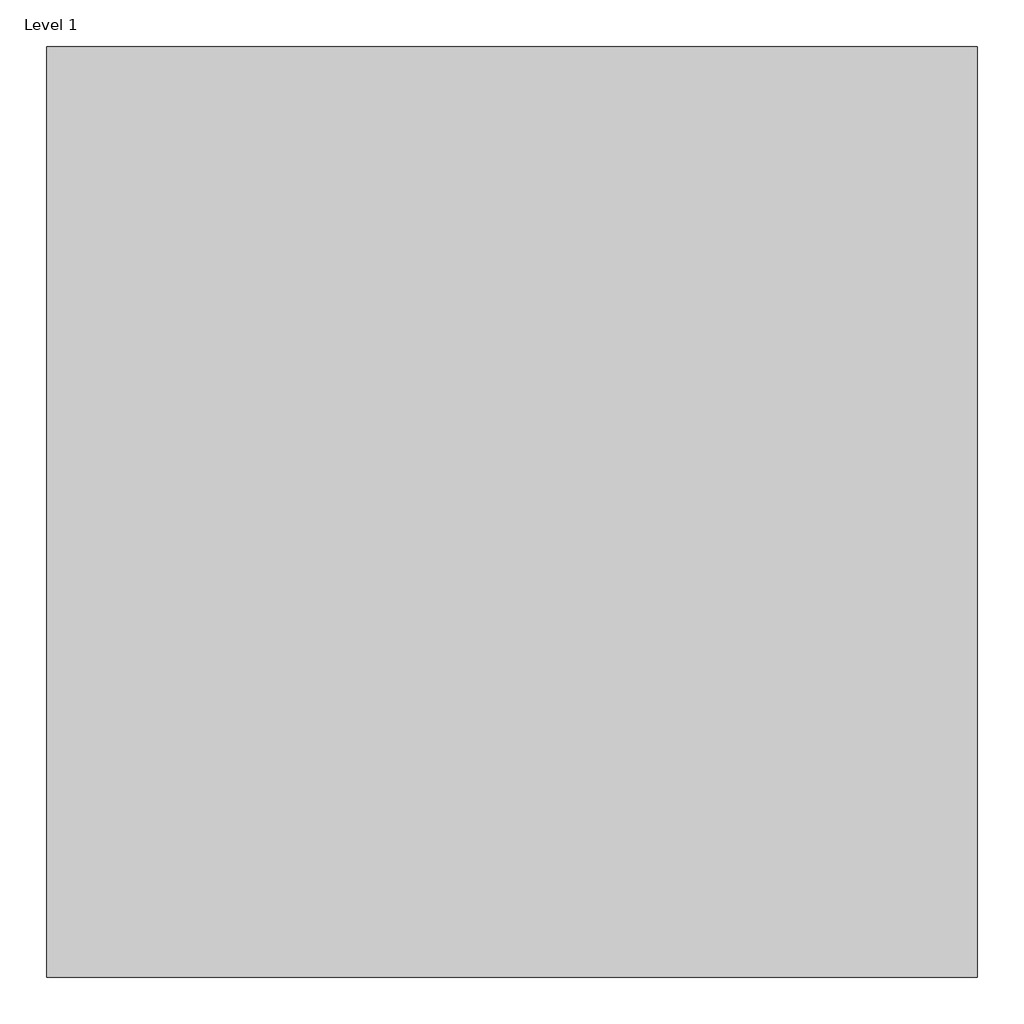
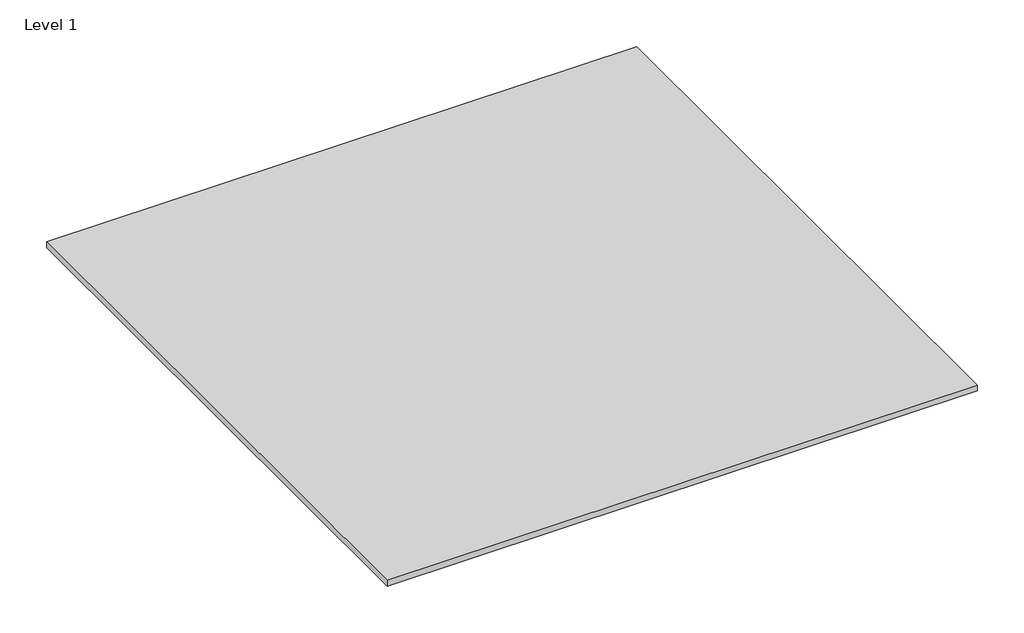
# One storey: 1 proxy.
"""IFC4 building model written with IfcOpenShell, lengths in millimetres."""

from ifc_helpers import new_model, si_unit, origin, place, context, project, spatial, transform, mapped, element, save
from components import materialsample_type_1_f4103403

model = new_model("IFC4")

# Units and contexts
model_context = context("Model", 3, world=origin())
ifc_project = project(units=[si_unit("LENGTHUNIT", "METRE", prefix="MILLI")], contexts=[model_context])

# Site, building, storey
site = spatial("IfcSite", under=ifc_project)
building = spatial("IfcBuilding", under=site)
storey = spatial("IfcBuildingStorey", under=building, Name="Level 1", Elevation=0.0)

# Proxy
placement = place(None, origin())
materialsample_type_1_shape = materialsample_type_1_f4103403(model_context)
element("IfcBuildingElementProxy", 1, Name="MaterialSample : Type 1", ObjectType="MaterialSample : Type 1", at=placement, inside=storey, context=model_context, shape_type="MappedRepresentation", body=[
    mapped(materialsample_type_1_shape, transform((3352.8, -3048.0, 0.0), x_axis=(1.0, 0.0, 0.0), y_axis=(0.0, 1.0, 0.0), z_axis=(0.0, 0.0, 1.0))),
])

save(model, "model.ifc")
